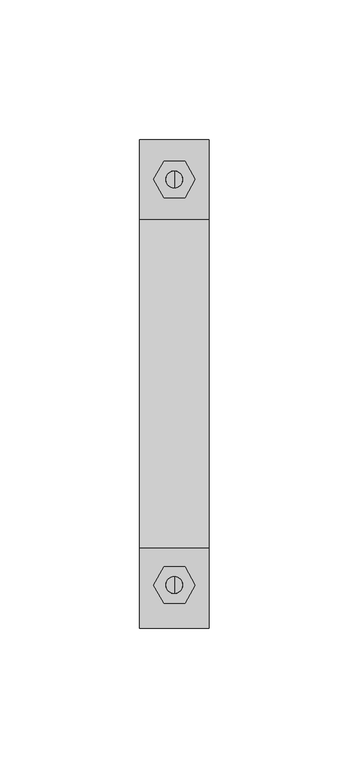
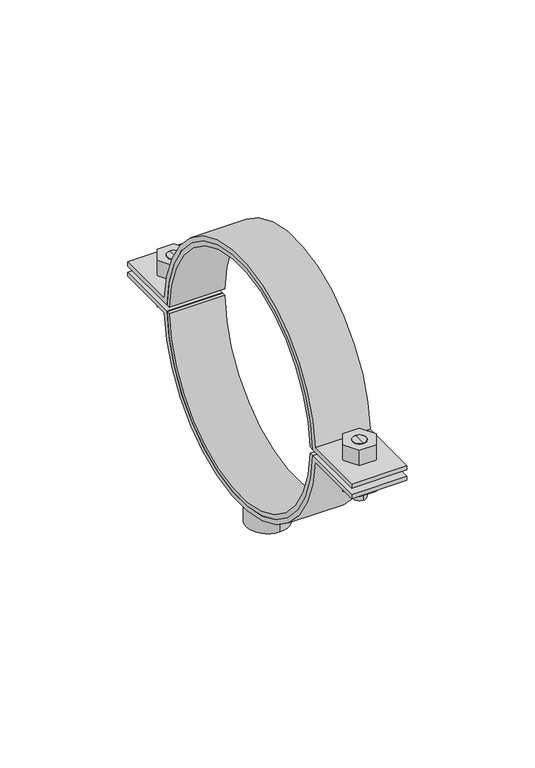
"""IFC4 building model written with IfcOpenShell, lengths in millimetres: valve geometry, Superfix DG2 Clamp Extra (based on pipe) : Superfix DG2 Clamp Extra (based on pipe)."""

import ifcopenshell
import ifcopenshell.guid

model = None  # the IFC model being written
_history = None  # IfcOwnerHistory: only IFC2X3 demands one
_inside = {}  # id of a spatial element -> (the spatial element, [elements in it])
_under = {}  # id of a project, library or spatial element -> (it, [spatial elements below it])
_declared = {}  # id of a project -> (the project, [libraries it declares])
_typed = {}  # id of a type object -> (the type object, [elements of that type])
_made_of = {}  # id of a material, layer set ... -> (it, [elements and type objects made of it])


def new_model(schema):
    """Start an empty IFC model of exactly this schema.

    Asked for "IFC4X3", IfcOpenShell would pick the latest addendum, in which some entities
    have other attributes; the version numbers below select the first issue.
    IFC2X3 requires an IfcOwnerHistory on every rooted entity: one is made here for all.
    """
    global model, _history
    if schema == "IFC4X3":
        model = ifcopenshell.file(schema_version=(4, 3, 0, 0))
    else:
        model = ifcopenshell.file(schema=schema)
    _inside.clear()
    _under.clear()
    _declared.clear()
    _typed.clear()
    _made_of.clear()
    _history = None
    if model.schema == "IFC2X3":
        org = make("IfcOrganization", Name="unknown")
        user = make(
            "IfcPersonAndOrganization",
            ThePerson=make("IfcPerson", FamilyName="unknown"),
            TheOrganization=org,
        )
        app = make(
            "IfcApplication",
            ApplicationDeveloper=org,
            Version="unknown",
            ApplicationFullName="unknown",
            ApplicationIdentifier="unknown",
        )
        _history = make(
            "IfcOwnerHistory",
            OwningUser=user,
            OwningApplication=app,
            ChangeAction="ADDED",
            CreationDate=0,
        )
    return model


def make(cls, **values):
    """One entity of the class cls with the attributes given. An attribute that is None is left unset."""
    return model.create_entity(
        cls, **{name: value for name, value in values.items() if value is not None}
    )


def rooted(cls, **values):
    """An entity with a GlobalId (a new one), such as an element, a storey or a relation."""
    return make(cls, GlobalId=ifcopenshell.guid.new(), OwnerHistory=_history, **values)


def si_unit(unit_type, name, prefix=None):
    """IfcSIUnit, for example si_unit("LENGTHUNIT", "METRE", prefix="MILLI")."""
    return make("IfcSIUnit", UnitType=unit_type, Prefix=prefix, Name=name)


def assignment(units):
    """IfcUnitAssignment: the units of a project."""
    return None if units is None else make("IfcUnitAssignment", Units=units)


def point(xyz):
    """IfcCartesianPoint."""
    return None if xyz is None else make("IfcCartesianPoint", Coordinates=xyz)


def direction(xyz):
    """IfcDirection."""
    return None if xyz is None else make("IfcDirection", DirectionRatios=xyz)


def frame(location, z_axis=None, x_axis=None):
    """IfcAxis2Placement3D, a coordinate frame: its origin and axes. An axis left out is left unset."""
    return make(
        "IfcAxis2Placement3D",
        Location=point(location),
        Axis=direction(z_axis),
        RefDirection=direction(x_axis),
    )


def frame_2d(location, x_axis=None):
    """IfcAxis2Placement2D, a coordinate frame in the plane: its origin and x axis."""
    return make(
        "IfcAxis2Placement2D", Location=point(location), RefDirection=direction(x_axis)
    )


def origin():
    """The frame at (0, 0, 0) with its axes left unset."""
    return frame((0.0, 0.0, 0.0))


def origin_2d():
    """The frame at (0, 0) in the plane with its x axis left unset."""
    return frame_2d((0.0, 0.0))


def place(relative_to, where):
    """IfcLocalPlacement: puts the frame where relative to a parent placement (None: the world)."""
    return make(
        "IfcLocalPlacement", PlacementRelTo=relative_to, RelativePlacement=where
    )


def context(
    kind, dimensions, precision=None, world=None, true_north=None, identifier=None
):
    """IfcGeometricRepresentationContext, for example the 3D "Model" context."""
    return make(
        "IfcGeometricRepresentationContext",
        ContextIdentifier=identifier,
        ContextType=kind,
        CoordinateSpaceDimension=dimensions,
        Precision=precision,
        WorldCoordinateSystem=world,
        TrueNorth=true_north,
    )


def project(units=None, contexts=None):
    """IfcProject with its units and contexts."""
    return rooted(
        "IfcProject",
        Name="project",
        RepresentationContexts=contexts,
        UnitsInContext=assignment(units),
    )


def spatial(cls, under=None, at=None, **own):
    """A site, building, storey or space (cls), placed at a placement, below another one or the project."""
    s = rooted(cls, ObjectPlacement=at, **own)
    if under is not None:
        _under.setdefault(under.id(), (under, []))[1].append(s)
    return s


def polyline(points):
    """IfcPolyline through the points."""
    return make("IfcPolyline", Points=[point(p) for p in points])


def circle_curve(where, radius):
    """IfcCircle in the frame where."""
    return make("IfcCircle", Position=where, Radius=radius)


def trimmed(basis, trim1, trim2, sense, master):
    """IfcTrimmedCurve: the piece of a basis curve between two trims."""
    return make(
        "IfcTrimmedCurve",
        BasisCurve=basis,
        Trim1=trim1,
        Trim2=trim2,
        SenseAgreement=sense,
        MasterRepresentation=master,
    )


def segment(curve, same_sense, transition):
    """IfcCompositeCurveSegment."""
    return make(
        "IfcCompositeCurveSegment",
        Transition=transition,
        SameSense=same_sense,
        ParentCurve=curve,
    )


def composite_curve(segments, self_intersect=None):
    """IfcCompositeCurve: segments joined end to end."""
    return make("IfcCompositeCurve", Segments=segments, SelfIntersect=self_intersect)


def outline(outer, holes=None, kind="AREA"):
    """IfcArbitraryClosedProfileDef: a profile drawn as a closed curve; with holes, ...WithVoids."""
    if holes is None:
        return make("IfcArbitraryClosedProfileDef", ProfileType=kind, OuterCurve=outer)
    return make(
        "IfcArbitraryProfileDefWithVoids",
        ProfileType=kind,
        OuterCurve=outer,
        InnerCurves=holes,
    )


def extrude(swept, where, along, depth):
    """IfcExtrudedAreaSolid: the profile swept, set in the frame where, extruded along a direction by depth."""
    return make(
        "IfcExtrudedAreaSolid",
        SweptArea=swept,
        Position=where,
        ExtrudedDirection=direction(along),
        Depth=depth,
    )


def shape(context_of_items, identifier, shape_type, items):
    """IfcShapeRepresentation: the items that make up one representation, for example the "Body"."""
    return make(
        "IfcShapeRepresentation",
        ContextOfItems=context_of_items,
        RepresentationIdentifier=identifier,
        RepresentationType=shape_type,
        Items=items,
    )


def source(mapping_origin, context_of_items, identifier, shape_type, items):
    """IfcRepresentationMap: a shape defined once, which mapped items show again and again."""
    return make(
        "IfcRepresentationMap",
        MappingOrigin=mapping_origin,
        MappedRepresentation=shape(context_of_items, identifier, shape_type, items),
    )


def transform(
    local_origin,
    x_axis=None,
    y_axis=None,
    z_axis=None,
    scale=None,
    scale2=None,
    scale3=None,
    uniform=True,
):
    """IfcCartesianTransformationOperator3D, or its non-uniform kind. x_axis, y_axis, z_axis: its Axis1, 2, 3."""
    if uniform:
        return make(
            "IfcCartesianTransformationOperator3D",
            Axis1=direction(x_axis),
            Axis2=direction(y_axis),
            LocalOrigin=point(local_origin),
            Scale=scale,
            Axis3=direction(z_axis),
        )
    return make(
        "IfcCartesianTransformationOperator3DnonUniform",
        Axis1=direction(x_axis),
        Axis2=direction(y_axis),
        LocalOrigin=point(local_origin),
        Scale=scale,
        Axis3=direction(z_axis),
        Scale2=scale2,
        Scale3=scale3,
    )


def mapped(mapping_source, mapping_target):
    """IfcMappedItem: shows the shape of a source again, moved by a transform."""
    return make(
        "IfcMappedItem", MappingSource=mapping_source, MappingTarget=mapping_target
    )


def made_of(thing, what):
    """Note that an element or type object is made of a material, layer set ...; save() writes the relation."""
    if what is not None:
        _made_of.setdefault(what.id(), (what, []))[1].append(thing)
    return thing


def element(
    cls,
    number,
    at=None,
    inside=None,
    cuts=None,
    type_object=None,
    material=None,
    context=None,
    identifier="Body",
    shape_type=None,
    held_by="IfcProductDefinitionShape",
    body=None,
    shapes=None,
    **own,
):
    """One element of the class cls, such as IfcWall. Its Tag is "e" and its number.

    at: its placement. inside: the storey or other place that contains it. cuts: it is an
    opening in that element (IfcRelVoidsElement). A single representation is given by context,
    identifier, shape_type and body (its items); several are given by shapes. held_by: the class
    of the entity that holds the representations. save() writes the other relations.
    """
    e = rooted(cls, Tag="e%d" % number, ObjectPlacement=at, **own)
    if body is not None:
        shapes = [shape(context, identifier, shape_type, body)]
    if shapes is not None:
        e.Representation = make(held_by, Representations=shapes)
    if inside is not None:
        _inside.setdefault(inside.id(), (inside, []))[1].append(e)
    if cuts is not None:
        rooted(
            "IfcRelVoidsElement", RelatingBuildingElement=cuts, RelatedOpeningElement=e
        )
    if type_object is not None:
        _typed.setdefault(type_object.id(), (type_object, []))[1].append(e)
    return made_of(e, material)


def aggregate(whole, parts):
    """IfcRelAggregates: a whole, such as a stair, and the parts it consists of."""
    return rooted("IfcRelAggregates", RelatingObject=whole, RelatedObjects=parts)


def save(model, path):
    """Write the relations noted so far, then the file.

    IfcRelAggregates (storeys below a building ...), IfcRelContainedInSpatialStructure (elements
    in a storey), IfcRelDefinesByType, IfcRelAssociatesMaterial and IfcRelDeclares: one each for
    every whole, place, type object, material and project.
    """
    for whole, parts in _under.values():
        aggregate(whole, parts)
    for where, things in _inside.values():
        rooted(
            "IfcRelContainedInSpatialStructure",
            RelatedElements=things,
            RelatingStructure=where,
        )
    for kind, things in _typed.values():
        rooted("IfcRelDefinesByType", RelatedObjects=things, RelatingType=kind)
    for what, things in _made_of.values():
        rooted("IfcRelAssociatesMaterial", RelatedObjects=things, RelatingMaterial=what)
    for by, libraries in _declared.values():
        rooted("IfcRelDeclares", RelatingContext=by, RelatedDefinitions=libraries)
    model.write(path)


def plane_surface(at):
    """IfcPlane: the flat surface through the origin of the frame at, square to its z axis."""
    return make("IfcPlane", Position=at)


def cylinder_surface(at, radius):
    """IfcCylindricalSurface: all points at the distance radius from the z axis of the frame at."""
    return make("IfcCylindricalSurface", Position=at, Radius=radius)


def advanced_brep(points, edges, surfaces, faces):
    """IfcAdvancedBrep: a solid bounded by faces that lie on surfaces and meet in shared edges.

    An edge is (start, end): straight between two places in points (the first is 0);
    or (start, end, curve); or (start, end, curve, False) where it runs against its curve.
    A face is (place in surfaces, loops), or (place, loops, False) where it looks against
    its surface's normal. A loop lists edges by number (the first is 1), with a minus sign
    where the edge is run from its end to its start. The first loop is the outer one.
    """
    corners = [point(p) for p in points]
    vertices = [make("IfcVertexPoint", VertexGeometry=c) for c in corners]
    made = []
    for start, end, *more in edges:
        made.append(
            make(
                "IfcEdgeCurve",
                EdgeStart=vertices[start],
                EdgeEnd=vertices[end],
                EdgeGeometry=more[0] if more else make("IfcPolyline", Points=[corners[start], corners[end]]),
                SameSense=more[1] if len(more) > 1 else True,
            )
        )
    hull = []
    for where, loops, *sense in faces:
        bounds = []
        for j, loop in enumerate(loops):
            ring = [make("IfcOrientedEdge", EdgeElement=made[abs(k) - 1], Orientation=k > 0) for k in loop]
            bounds.append(
                make(
                    "IfcFaceOuterBound" if j == 0 else "IfcFaceBound",
                    Bound=make("IfcEdgeLoop", EdgeList=ring),
                    Orientation=True,
                )
            )
        hull.append(make("IfcAdvancedFace", Bounds=bounds, FaceSurface=surfaces[where], SameSense=sense[0] if sense else True))
    return make("IfcAdvancedBrep", Outer=make("IfcClosedShell", CfsFaces=hull))


def valve_94420c43(model_context):
    return source(origin(), model_context, "Body", "SolidModel", [
        advanced_brep(
        [(0.0, 76.25, 342.4002332), (0.0, 70.25, 342.4002332), (0.0, 70.25, 357.0002332), (0.0, 76.25, 357.0002332), (0.0, 73.25, 342.4002332)],
        [
            (0, 1, circle_curve(frame((0.0, 73.25, 342.4002332), z_axis=(0.0, 0.0, 1.0), x_axis=(0.0, 1.0, 0.0)), 3.0)),
            (1, 2),
            (2, 3, circle_curve(frame((0.0, 73.25, 357.0002332), z_axis=(0.0, 0.0, -1.0), x_axis=(0.0, 1.0, 0.0)), 3.0)),
            (3, 0),
            (1, 0, circle_curve(frame((0.0, 73.25, 342.4002332), z_axis=(0.0, 0.0, 1.0), x_axis=(0.0, 1.0, 0.0)), 3.0)),
            (3, 2, circle_curve(frame((0.0, 73.25, 357.0002332), z_axis=(0.0, 0.0, -1.0), x_axis=(0.0, 1.0, 0.0)), 3.0)),
            (0, 4),
            (4, 1),
        ],
        [
            cylinder_surface(frame((0.0, 73.25, 356.7808426), z_axis=(0.0, 0.0, 1.0), x_axis=(0.0, 1.0, 0.0)), 3.0),
            plane_surface(frame((0.0, 73.25, 342.4002332), z_axis=(0.0, 0.0, -1.0), x_axis=(0.0, 1.0, 0.0))),
            plane_surface(frame((13.75, -87.5, 357.0002332), z_axis=(0.0, 0.0, 1.0), x_axis=(-1.0, 0.0, 0.0))),
        ],
        [
            (0, [[1, 2, 3, 4]]),
            (0, [[5, -4, 6, -2]]),
            (1, [[-1, 7, 8]]),
            (1, [[-5, -8, -7]]),
            (2, [[-3, -6]]),
        ],
    ),
        advanced_brep(
        [(0.0, 70.25, 369.6002332), (0.0, 76.25, 369.6002332), (0.0, 76.25, 360.0002332), (0.0, 70.25, 360.0002332), (0.0, 73.25, 369.6002332)],
        [
            (0, 1, circle_curve(frame((0.0, 73.25, 369.6002332), z_axis=(0.0, 0.0, -1.0), x_axis=(0.0, 1.0, 0.0)), 3.0)),
            (1, 2),
            (2, 3, circle_curve(frame((0.0, 73.25, 360.0002332), z_axis=(0.0, 0.0, 1.0), x_axis=(0.0, 1.0, 0.0)), 3.0)),
            (3, 0),
            (1, 0, circle_curve(frame((0.0, 73.25, 369.6002332), z_axis=(0.0, 0.0, -1.0), x_axis=(0.0, 1.0, 0.0)), 3.0)),
            (3, 2, circle_curve(frame((0.0, 73.25, 360.0002332), z_axis=(0.0, 0.0, 1.0), x_axis=(0.0, 1.0, 0.0)), 3.0)),
            (0, 4),
            (4, 1),
        ],
        [
            cylinder_surface(frame((0.0, 73.25, 356.7808426), z_axis=(0.0, 0.0, 1.0), x_axis=(0.0, 1.0, 0.0)), 3.0),
            plane_surface(frame((0.0, 73.25, 369.6002332), z_axis=(0.0, 0.0, 1.0), x_axis=(0.0, 1.0, 0.0))),
            plane_surface(frame((13.75, 87.5, 360.0002332), z_axis=(0.0, 0.0, -1.0), x_axis=(-1.0, 0.0, 0.0))),
        ],
        [
            (0, [[1, 2, 3, 4]]),
            (0, [[5, -4, 6, -2]]),
            (1, [[-1, 7, 8]]),
            (1, [[-5, -8, -7]]),
            (2, [[-3, -6]]),
        ],
    ),
        advanced_brep(
        [(0.0, -75.0, 369.6002332), (0.0, -69.0, 369.6002332), (0.0, -69.0, 360.0002332), (0.0, -75.0, 360.0002332), (0.0, -72.0, 369.6002332)],
        [
            (0, 1, circle_curve(frame((0.0, -72.0, 369.6002332), z_axis=(0.0, 0.0, -1.0), x_axis=(0.0, -1.0, 0.0)), 3.0)),
            (1, 2),
            (2, 3, circle_curve(frame((0.0, -72.0, 360.0002332), z_axis=(0.0, 0.0, 1.0), x_axis=(0.0, -1.0, 0.0)), 3.0)),
            (3, 0),
            (1, 0, circle_curve(frame((0.0, -72.0, 369.6002332), z_axis=(0.0, 0.0, -1.0), x_axis=(0.0, -1.0, 0.0)), 3.0)),
            (3, 2, circle_curve(frame((0.0, -72.0, 360.0002332), z_axis=(0.0, 0.0, 1.0), x_axis=(0.0, -1.0, 0.0)), 3.0)),
            (0, 4),
            (4, 1),
        ],
        [
            cylinder_surface(frame((0.0, -72.0, 356.7808426), z_axis=(0.0, 0.0, -1.0), x_axis=(0.0, -1.0, 0.0)), 3.0),
            plane_surface(frame((0.0, -72.0, 369.6002332), z_axis=(0.0, 0.0, 1.0), x_axis=(0.0, -1.0, 0.0))),
            plane_surface(frame((13.75, 87.5, 360.0002332), z_axis=(0.0, 0.0, -1.0), x_axis=(-1.0, 0.0, 0.0))),
        ],
        [
            (0, [[1, 2, 3, 4]]),
            (0, [[5, -4, 6, -2]]),
            (1, [[-1, 7, 8]]),
            (1, [[-5, -8, -7]]),
            (2, [[-3, -6]]),
        ],
    ),
        advanced_brep(
        [(0.0, -69.0, 342.4002332), (0.0, -75.0, 342.4002332), (0.0, -75.0, 357.0002332), (0.0, -69.0, 357.0002332), (0.0, -72.0, 342.4002332)],
        [
            (0, 1, circle_curve(frame((0.0, -72.0, 342.4002332), z_axis=(0.0, 0.0, 1.0), x_axis=(0.0, -1.0, 0.0)), 3.0)),
            (1, 2),
            (2, 3, circle_curve(frame((0.0, -72.0, 357.0002332), z_axis=(0.0, 0.0, -1.0), x_axis=(0.0, -1.0, 0.0)), 3.0)),
            (3, 0),
            (1, 0, circle_curve(frame((0.0, -72.0, 342.4002332), z_axis=(0.0, 0.0, 1.0), x_axis=(0.0, -1.0, 0.0)), 3.0)),
            (3, 2, circle_curve(frame((0.0, -72.0, 357.0002332), z_axis=(0.0, 0.0, -1.0), x_axis=(0.0, -1.0, 0.0)), 3.0)),
            (0, 4),
            (4, 1),
        ],
        [
            cylinder_surface(frame((0.0, -72.0, 356.7808426), z_axis=(0.0, 0.0, -1.0), x_axis=(0.0, -1.0, 0.0)), 3.0),
            plane_surface(frame((0.0, -72.0, 342.4002332), z_axis=(0.0, 0.0, -1.0), x_axis=(0.0, -1.0, 0.0))),
            plane_surface(frame((13.75, -87.5, 357.0002332), z_axis=(0.0, 0.0, 1.0), x_axis=(-1.0, 0.0, 0.0))),
        ],
        [
            (0, [[1, 2, 3, 4]]),
            (0, [[5, -4, 6, -2]]),
            (1, [[-1, 7, 8]]),
            (1, [[-5, -8, -7]]),
            (2, [[-3, -6]]),
        ],
    ),
        extrude(outline(composite_curve([segment(trimmed(circle_curve(frame_2d((0.0, 358.5002332)), 57.0), [point((-56.9802597, 357.0002332))], [point((56.9802597, 357.0002332))], True, "CARTESIAN"), True, "CONTINUOUS"), segment(polyline([(56.9802597, 357.0002332), (87.5, 357.0002332), (87.5, 355.0002332), (58.8960949, 355.0002332)]), True, "CONTINUOUS"), segment(trimmed(circle_curve(frame_2d((0.0, 358.5002332)), 59.0), [point((58.8960949, 355.0002332))], [point((-58.8960949, 355.0002332))], False, "CARTESIAN"), True, "CONTINUOUS"), segment(polyline([(-58.8960949, 355.0002332), (-87.5, 355.0002332), (-87.5, 357.0002332), (-56.9802597, 357.0002332)]), True, "CONTINUOUS")], self_intersect=False)), frame((-12.5, 0.0, 0.0), z_axis=(1.0, 0.0, 0.0), x_axis=(0.0, 1.0, 0.0)), (0.0, 0.0, 1.0), 25.0),
        extrude(outline(composite_curve([segment(trimmed(circle_curve(frame_2d((0.0, 358.5002332)), 57.0), [point((56.9802597, 360.0002332))], [point((-56.9802597, 360.0002332))], True, "CARTESIAN"), True, "CONTINUOUS"), segment(polyline([(-56.9802597, 360.0002332), (-87.5, 360.0002332), (-87.5, 362.0002332), (-58.8960949, 362.0002332)]), True, "CONTINUOUS"), segment(trimmed(circle_curve(frame_2d((0.0, 358.5002332)), 59.0), [point((-58.8960949, 362.0002332))], [point((58.8960949, 362.0002332))], False, "CARTESIAN"), True, "CONTINUOUS"), segment(polyline([(58.8960949, 362.0002332), (87.5, 362.0002332), (87.5, 360.0002332), (56.9802597, 360.0002332)]), True, "CONTINUOUS")], self_intersect=False)), frame((-12.5, 0.0, 0.0), z_axis=(1.0, 0.0, 0.0), x_axis=(0.0, 1.0, 0.0)), (0.0, 0.0, 1.0), 25.0),
        extrude(outline(polyline([(7.5055535, -72.0), (3.7527767, -78.5), (-3.7527767, -78.5), (-7.5055535, -72.0), (-3.7527767, -65.5), (3.7527767, -65.5), (7.5055535, -72.0)]), holes=[composite_curve([segment(trimmed(circle_curve(frame_2d((0.0, -72.0)), 3.0), [point((3.0, -72.0))], [point((-3.0, -72.0))], True, "CARTESIAN"), True, "CONTINUOUS"), segment(trimmed(circle_curve(frame_2d((0.0, -72.0)), 3.0), [point((-3.0, -72.0))], [point((3.0, -72.0))], True, "CARTESIAN"), True, "CONTINUOUS")], self_intersect=False)]), frame((0.0, 0.0, 362.0002332), z_axis=(0.0, 0.0, 1.0), x_axis=(1.0, 0.0, 0.0)), (0.0, 0.0, 1.0), 7.6),
        extrude(outline(polyline([(7.5055535, 73.25), (3.7527767, 66.75), (-3.7527767, 66.75), (-7.5055535, 73.25), (-3.7527767, 79.75), (3.7527767, 79.75), (7.5055535, 73.25)]), holes=[composite_curve([segment(trimmed(circle_curve(frame_2d((0.0, 73.25)), 3.0), [point((3.0, 73.25))], [point((-3.0, 73.25))], True, "CARTESIAN"), True, "CONTINUOUS"), segment(trimmed(circle_curve(frame_2d((0.0, 73.25)), 3.0), [point((-3.0, 73.25))], [point((3.0, 73.25))], True, "CARTESIAN"), True, "CONTINUOUS")], self_intersect=False)]), frame((0.0, 0.0, 362.0002332), z_axis=(0.0, 0.0, 1.0), x_axis=(1.0, 0.0, 0.0)), (0.0, 0.0, 1.0), 7.6),
        extrude(outline(polyline([(7.5055535, -72.0), (3.7527767, -78.5), (-3.7527767, -78.5), (-7.5055535, -72.0), (-3.7527767, -65.5), (3.7527767, -65.5), (7.5055535, -72.0)]), holes=[composite_curve([segment(trimmed(circle_curve(frame_2d((0.0, -72.0)), 3.0), [point((3.0, -72.0))], [point((-3.0, -72.0))], True, "CARTESIAN"), True, "CONTINUOUS"), segment(trimmed(circle_curve(frame_2d((0.0, -72.0)), 3.0), [point((-3.0, -72.0))], [point((3.0, -72.0))], True, "CARTESIAN"), True, "CONTINUOUS")], self_intersect=False)]), frame((0.0, 0.0, 347.4002332), z_axis=(0.0, 0.0, 1.0), x_axis=(1.0, 0.0, 0.0)), (0.0, 0.0, 1.0), 7.6),
        extrude(outline(polyline([(7.5055535, 73.25), (3.7527767, 66.75), (-3.7527767, 66.75), (-7.5055535, 73.25), (-3.7527767, 79.75), (3.7527767, 79.75), (7.5055535, 73.25)]), holes=[composite_curve([segment(trimmed(circle_curve(frame_2d((0.0, 73.25)), 3.0), [point((3.0, 73.25))], [point((-3.0, 73.25))], True, "CARTESIAN"), True, "CONTINUOUS"), segment(trimmed(circle_curve(frame_2d((0.0, 73.25)), 3.0), [point((-3.0, 73.25))], [point((3.0, 73.25))], True, "CARTESIAN"), True, "CONTINUOUS")], self_intersect=False)]), frame((0.0, 0.0, 347.4002332), z_axis=(0.0, 0.0, 1.0), x_axis=(1.0, 0.0, 0.0)), (0.0, 0.0, 1.0), 7.6),
        extrude(outline(composite_curve([segment(trimmed(circle_curve(origin_2d(), 9.5), [point((0.0, 9.5))], [point((0.0, -9.5))], False, "CARTESIAN"), True, "CONTINUOUS"), segment(trimmed(circle_curve(origin_2d(), 9.5), [point((0.0, -9.5))], [point((0.0, 9.5))], False, "CARTESIAN"), True, "CONTINUOUS")], self_intersect=False), holes=[composite_curve([segment(trimmed(circle_curve(origin_2d(), 6.0), [point((0.0, 6.0))], [point((0.0, -6.0))], True, "CARTESIAN"), True, "CONTINUOUS"), segment(trimmed(circle_curve(origin_2d(), 6.0), [point((0.0, -6.0))], [point((0.0, 6.0))], True, "CARTESIAN"), True, "CONTINUOUS")], self_intersect=False)]), frame((0.0, 0.0, 287.5002332), z_axis=(0.0, 0.0, 1.0), x_axis=(1.0, 0.0, 0.0)), (0.0, 0.0, 1.0), 14.0),
        extrude(outline(composite_curve([segment(trimmed(circle_curve(frame_2d((0.0, 358.5002332)), 55.0), [point((54.9795416, 360.0002332))], [point((-54.9795416, 360.0002332))], True, "CARTESIAN"), True, "CONTINUOUS"), segment(polyline([(-54.9795416, 360.0002332), (-56.9802597, 360.0002332)]), True, "CONTINUOUS"), segment(trimmed(circle_curve(frame_2d((0.0, 358.5002332)), 57.0), [point((-56.9802597, 360.0002332))], [point((56.9802597, 360.0002332))], False, "CARTESIAN"), True, "CONTINUOUS"), segment(polyline([(56.9802597, 360.0002332), (54.9795416, 360.0002332)]), True, "CONTINUOUS")], self_intersect=False)), frame((-12.5, 0.0, 0.0), z_axis=(1.0, 0.0, 0.0), x_axis=(0.0, 1.0, 0.0)), (0.0, 0.0, 1.0), 25.0),
        extrude(outline(composite_curve([segment(polyline([(54.9795416, 357.0002332), (56.9802597, 357.0002332)]), True, "CONTINUOUS"), segment(trimmed(circle_curve(frame_2d((0.0, 358.5002332)), 57.0), [point((56.9802597, 357.0002332))], [point((-56.9802597, 357.0002332))], False, "CARTESIAN"), True, "CONTINUOUS"), segment(polyline([(-56.9802597, 357.0002332), (-54.9795416, 357.0002332)]), True, "CONTINUOUS"), segment(trimmed(circle_curve(frame_2d((0.0, 358.5002332)), 55.0), [point((-54.9795416, 357.0002332))], [point((54.9795416, 357.0002332))], True, "CARTESIAN"), True, "CONTINUOUS")], self_intersect=False)), frame((-12.5, 0.0, 0.0), z_axis=(1.0, 0.0, 0.0), x_axis=(0.0, 1.0, 0.0)), (0.0, 0.0, 1.0), 25.0),
    ])


if __name__ == "__main__":
    model = new_model("IFC4")
    model_context = context("Model", 3, world=origin())
    ifc_project = project(units=[si_unit("LENGTHUNIT", "METRE", prefix="MILLI")], contexts=[model_context])
    site = spatial("IfcSite", under=ifc_project)
    building = spatial("IfcBuilding", under=site)
    placement = place(None, origin())
    valve_shape = valve_94420c43(model_context)
    element("IfcValve", 1, ObjectType="Superfix DG2 Clamp Extra (based on pipe) : Superfix DG2 Clamp Extra (based on pipe)", at=placement, inside=building, context=model_context, shape_type="MappedRepresentation", body=[
        mapped(valve_shape, transform((0.0, 0.0, 0.0), x_axis=(1.0, 0.0, 0.0), y_axis=(0.0, 1.0, 0.0), z_axis=(0.0, 0.0, 1.0))),
    ])
    save(model, "model.ifc")
